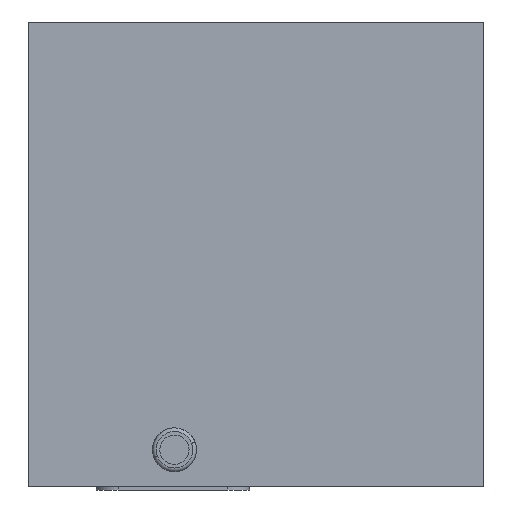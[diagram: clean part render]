
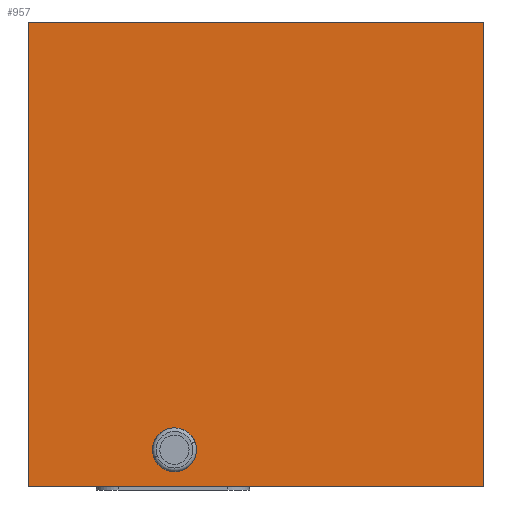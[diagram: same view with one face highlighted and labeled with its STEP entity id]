
A CAD part, left-side view. The second image highlights one B-rep face of the part: STEP entity #957.
In plain terms, the highlighted planar face has unit normal (-1, 0, 0).
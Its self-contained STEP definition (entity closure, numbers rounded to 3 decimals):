
#288 = VERTEX_POINT ( 'NONE', #3230 ) ;
#289 = VERTEX_POINT ( 'NONE', #3231 ) ;
#429 = EDGE_LOOP ( 'NONE', ( #2880, #2881, #2882, #2883 ) ) ;
#445 = EDGE_LOOP ( 'NONE', ( #2878, #2879 ) ) ;
#957 = ADVANCED_FACE ( 'NONE', ( #1668, #1663 ), #1669, .F. ) ;
#976 = EDGE_CURVE ( 'NONE', #3036, #2987, #2703, .T. ) ;
#977 = EDGE_CURVE ( 'NONE', #289, #1029, #1764, .T. ) ;
#978 = EDGE_CURVE ( 'NONE', #288, #1029, #1762, .T. ) ;
#979 = EDGE_CURVE ( 'NONE', #1031, #288, #1763, .T. ) ;
#980 = EDGE_CURVE ( 'NONE', #1031, #289, #1773, .T. ) ;
#1017 = EDGE_CURVE ( 'NONE', #2987, #3036, #2762, .T. ) ;
#1029 = VERTEX_POINT ( 'NONE', #1900 ) ;
#1031 = VERTEX_POINT ( 'NONE', #1901 ) ;
#1660 = CARTESIAN_POINT ( 'NONE',  ( -57.375, 22.786, 78.296 ) ) ;
#1663 = FACE_OUTER_BOUND ( 'NONE', #429, .T. ) ;
#1668 = FACE_BOUND ( 'NONE', #445, .T. ) ;
#1669 = PLANE ( 'NONE',  #2687 ) ;
#1671 = DIRECTION ( 'NONE',  ( 1., 0., 0. ) ) ;
#1672 = DIRECTION ( 'NONE',  ( 0., 0., -1. ) ) ;
#1751 = CARTESIAN_POINT ( 'NONE',  ( -57.375, 22.786, 14.796 ) ) ;
#1762 = LINE ( 'NONE', #1769, #2704 ) ;
#1763 = LINE ( 'NONE', #1771, #2706 ) ;
#1764 = LINE ( 'NONE', #1751, #2679 ) ;
#1765 = CARTESIAN_POINT ( 'NONE',  ( -57.375, 65.086, 19.796 ) ) ;
#1766 = DIRECTION ( 'NONE',  ( -1., 0., 0. ) ) ;
#1767 = DIRECTION ( 'NONE',  ( 0., 0., 1. ) ) ;
#1768 = DIRECTION ( 'NONE',  ( 0., -1., 0. ) ) ;
#1769 = CARTESIAN_POINT ( 'NONE',  ( -57.375, 22.786, 78.296 ) ) ;
#1770 = DIRECTION ( 'NONE',  ( 0., 0., -1. ) ) ;
#1771 = CARTESIAN_POINT ( 'NONE',  ( -57.375, 22.786, 78.296 ) ) ;
#1772 = DIRECTION ( 'NONE',  ( 0., -1., 0. ) ) ;
#1773 = LINE ( 'NONE', #1774, #2708 ) ;
#1774 = CARTESIAN_POINT ( 'NONE',  ( -57.375, 85.086, 78.296 ) ) ;
#1775 = DIRECTION ( 'NONE',  ( 0., 0., -1. ) ) ;
#1888 = CARTESIAN_POINT ( 'NONE',  ( -57.375, 65.086, 19.796 ) ) ;
#1889 = DIRECTION ( 'NONE',  ( -1., 0., 0. ) ) ;
#1890 = DIRECTION ( 'NONE',  ( 0., 0., 1. ) ) ;
#1900 = CARTESIAN_POINT ( 'NONE',  ( -57.375, 22.786, 14.796 ) ) ;
#1901 = CARTESIAN_POINT ( 'NONE',  ( -57.375, 85.086, 78.296 ) ) ;
#2015 = CARTESIAN_POINT ( 'NONE',  ( -57.375, 65.086, 16.796 ) ) ;
#2064 = CARTESIAN_POINT ( 'NONE',  ( -57.375, 65.086, 22.796 ) ) ;
#2679 = VECTOR ( 'NONE', #1768, 1000. ) ;
#2687 = AXIS2_PLACEMENT_3D ( 'NONE', #1660, #1671, #1672 ) ;
#2703 = CIRCLE ( 'NONE', #2705, 3. ) ;
#2704 = VECTOR ( 'NONE', #1770, 1000. ) ;
#2705 = AXIS2_PLACEMENT_3D ( 'NONE', #1765, #1766, #1767 ) ;
#2706 = VECTOR ( 'NONE', #1772, 1000. ) ;
#2708 = VECTOR ( 'NONE', #1775, 1000. ) ;
#2762 = CIRCLE ( 'NONE', #2764, 3. ) ;
#2764 = AXIS2_PLACEMENT_3D ( 'NONE', #1888, #1889, #1890 ) ;
#2878 = ORIENTED_EDGE ( 'NONE', *, *, #976, .F. ) ;
#2879 = ORIENTED_EDGE ( 'NONE', *, *, #1017, .F. ) ;
#2880 = ORIENTED_EDGE ( 'NONE', *, *, #977, .T. ) ;
#2881 = ORIENTED_EDGE ( 'NONE', *, *, #978, .F. ) ;
#2882 = ORIENTED_EDGE ( 'NONE', *, *, #979, .F. ) ;
#2883 = ORIENTED_EDGE ( 'NONE', *, *, #980, .T. ) ;
#2987 = VERTEX_POINT ( 'NONE', #2015 ) ;
#3036 = VERTEX_POINT ( 'NONE', #2064 ) ;
#3230 = CARTESIAN_POINT ( 'NONE',  ( -57.375, 22.786, 78.296 ) ) ;
#3231 = CARTESIAN_POINT ( 'NONE',  ( -57.375, 85.086, 14.796 ) ) ;
